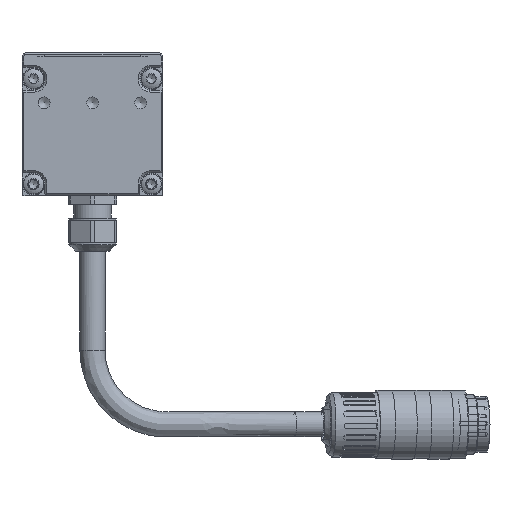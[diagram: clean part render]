
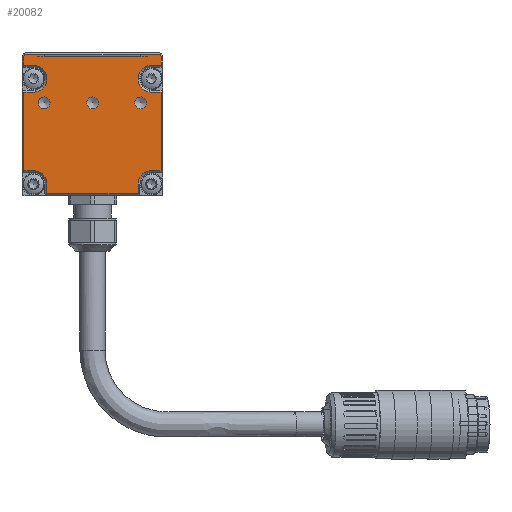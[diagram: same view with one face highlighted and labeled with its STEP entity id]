
A CAD part, left-side view. The second image highlights one B-rep face of the part: STEP entity #20082.
In plain terms, the highlighted planar face has unit normal (-1, 0, 0).
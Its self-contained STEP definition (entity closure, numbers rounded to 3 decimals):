
#880=LINE('',#27913,#1882);
#882=LINE('',#27917,#1884);
#886=LINE('',#27925,#1888);
#889=LINE('',#27931,#1891);
#891=LINE('',#27936,#1893);
#895=LINE('',#27944,#1897);
#897=LINE('',#27948,#1899);
#901=LINE('',#27957,#1903);
#903=LINE('',#27962,#1905);
#906=LINE('',#27970,#1908);
#909=LINE('',#27976,#1911);
#912=LINE('',#27984,#1914);
#916=LINE('',#27992,#1918);
#919=LINE('',#27999,#1921);
#1882=VECTOR('',#23214,1000.);
#1884=VECTOR('',#23218,1000.);
#1888=VECTOR('',#23224,1000.);
#1891=VECTOR('',#23229,1000.);
#1893=VECTOR('',#23235,1000.);
#1897=VECTOR('',#23241,1000.);
#1899=VECTOR('',#23247,1000.);
#1903=VECTOR('',#23257,1000.);
#1905=VECTOR('',#23265,1000.);
#1908=VECTOR('',#23274,1000.);
#1911=VECTOR('',#23283,1000.);
#1914=VECTOR('',#23292,1000.);
#1918=VECTOR('',#23302,1000.);
#1921=VECTOR('',#23311,1000.);
#2682=PLANE('',#21147);
#3923=ORIENTED_EDGE('',*,*,#7674,.T.);
#3924=ORIENTED_EDGE('',*,*,#7675,.T.);
#3925=ORIENTED_EDGE('',*,*,#7676,.T.);
#3926=ORIENTED_EDGE('',*,*,#7648,.T.);
#3927=ORIENTED_EDGE('',*,*,#7645,.T.);
#3928=ORIENTED_EDGE('',*,*,#7639,.T.);
#3929=ORIENTED_EDGE('',*,*,#7656,.T.);
#3930=ORIENTED_EDGE('',*,*,#7654,.T.);
#3931=ORIENTED_EDGE('',*,*,#7652,.T.);
#3932=ORIENTED_EDGE('',*,*,#7630,.T.);
#3933=ORIENTED_EDGE('',*,*,#7663,.T.);
#3934=ORIENTED_EDGE('',*,*,#7661,.T.);
#3935=ORIENTED_EDGE('',*,*,#7659,.T.);
#3936=ORIENTED_EDGE('',*,*,#7628,.T.);
#3937=ORIENTED_EDGE('',*,*,#7673,.F.);
#3938=ORIENTED_EDGE('',*,*,#7643,.T.);
#3939=ORIENTED_EDGE('',*,*,#7672,.F.);
#3940=ORIENTED_EDGE('',*,*,#7637,.T.);
#3941=ORIENTED_EDGE('',*,*,#7671,.T.);
#3942=ORIENTED_EDGE('',*,*,#7669,.T.);
#3943=ORIENTED_EDGE('',*,*,#7667,.T.);
#3944=ORIENTED_EDGE('',*,*,#7634,.T.);
#3945=ORIENTED_EDGE('',*,*,#7650,.T.);
#7628=EDGE_CURVE('',#9566,#9567,#880,.T.);
#7630=EDGE_CURVE('',#9569,#9568,#882,.T.);
#7634=EDGE_CURVE('',#9570,#9571,#886,.T.);
#7637=EDGE_CURVE('',#9572,#9573,#889,.T.);
#7639=EDGE_CURVE('',#9575,#9574,#891,.T.);
#7643=EDGE_CURVE('',#9576,#9577,#895,.T.);
#7645=EDGE_CURVE('',#9578,#9575,#897,.T.);
#7648=EDGE_CURVE('',#9579,#9578,#10697,.T.);
#7650=EDGE_CURVE('',#9571,#9579,#901,.T.);
#7652=EDGE_CURVE('',#9580,#9569,#903,.T.);
#7654=EDGE_CURVE('',#9581,#9580,#10698,.T.);
#7656=EDGE_CURVE('',#9574,#9581,#906,.T.);
#7659=EDGE_CURVE('',#9582,#9566,#909,.T.);
#7661=EDGE_CURVE('',#9583,#9582,#10699,.T.);
#7663=EDGE_CURVE('',#9568,#9583,#912,.T.);
#7667=EDGE_CURVE('',#9584,#9570,#916,.T.);
#7669=EDGE_CURVE('',#9585,#9584,#10700,.T.);
#7671=EDGE_CURVE('',#9573,#9585,#919,.T.);
#7672=EDGE_CURVE('',#9572,#9577,#10701,.T.);
#7673=EDGE_CURVE('',#9576,#9567,#10702,.T.);
#7674=EDGE_CURVE('',#9586,#9586,#10703,.T.);
#7675=EDGE_CURVE('',#9587,#9587,#10704,.T.);
#7676=EDGE_CURVE('',#9588,#9588,#10705,.T.);
#9566=VERTEX_POINT('',#27910);
#9567=VERTEX_POINT('',#27912);
#9568=VERTEX_POINT('',#27916);
#9569=VERTEX_POINT('',#27918);
#9570=VERTEX_POINT('',#27922);
#9571=VERTEX_POINT('',#27924);
#9572=VERTEX_POINT('',#27928);
#9573=VERTEX_POINT('',#27930);
#9574=VERTEX_POINT('',#27935);
#9575=VERTEX_POINT('',#27937);
#9576=VERTEX_POINT('',#27941);
#9577=VERTEX_POINT('',#27943);
#9578=VERTEX_POINT('',#27949);
#9579=VERTEX_POINT('',#27953);
#9580=VERTEX_POINT('',#27963);
#9581=VERTEX_POINT('',#27967);
#9582=VERTEX_POINT('',#27977);
#9583=VERTEX_POINT('',#27981);
#9584=VERTEX_POINT('',#27991);
#9585=VERTEX_POINT('',#27995);
#9586=VERTEX_POINT('',#28007);
#9587=VERTEX_POINT('',#28009);
#9588=VERTEX_POINT('',#28011);
#10697=CIRCLE('',#21122,3.6);
#10698=CIRCLE('',#21128,3.6);
#10699=CIRCLE('',#21134,3.6);
#10700=CIRCLE('',#21140,3.6);
#10701=CIRCLE('',#21144,0.5);
#10702=CIRCLE('',#21146,0.5);
#10703=CIRCLE('',#21148,1.621);
#10704=CIRCLE('',#21149,1.621);
#10705=CIRCLE('',#21150,1.621);
#11388=EDGE_LOOP('',(#3923));
#11389=EDGE_LOOP('',(#3924));
#11390=EDGE_LOOP('',(#3925));
#11391=EDGE_LOOP('',(#3926,#3927,#3928,#3929,#3930,#3931,#3932,#3933,#3934,
#3935,#3936,#3937,#3938,#3939,#3940,#3941,#3942,#3943,#3944,#3945));
#12478=FACE_BOUND('',#11388,.T.);
#12479=FACE_BOUND('',#11389,.T.);
#12480=FACE_BOUND('',#11390,.T.);
#12481=FACE_BOUND('',#11391,.T.);
#20082=ADVANCED_FACE('',(#12478,#12479,#12480,#12481),#2682,.F.);
#21122=AXIS2_PLACEMENT_3D('',#27954,#23252,#23253);
#21128=AXIS2_PLACEMENT_3D('',#27966,#23269,#23270);
#21134=AXIS2_PLACEMENT_3D('',#27980,#23287,#23288);
#21140=AXIS2_PLACEMENT_3D('',#27996,#23306,#23307);
#21144=AXIS2_PLACEMENT_3D('',#28002,#23316,#23317);
#21146=AXIS2_PLACEMENT_3D('',#28004,#23320,#23321);
#21147=AXIS2_PLACEMENT_3D('',#28005,#23322,#23323);
#21148=AXIS2_PLACEMENT_3D('',#28006,#23324,#23325);
#21149=AXIS2_PLACEMENT_3D('',#28008,#23326,#23327);
#21150=AXIS2_PLACEMENT_3D('',#28010,#23328,#23329);
#23214=DIRECTION('',(0.,0.,1.));
#23218=DIRECTION('',(0.,0.,1.));
#23224=DIRECTION('',(0.,0.,-1.));
#23229=DIRECTION('',(0.,0.,-1.));
#23235=DIRECTION('',(0.,-1.,0.));
#23241=DIRECTION('',(0.,1.,0.));
#23247=DIRECTION('',(0.,0.,-1.));
#23252=DIRECTION('',(1.,0.,0.));
#23253=DIRECTION('',(0.,1.,0.));
#23257=DIRECTION('',(0.,-1.,0.));
#23265=DIRECTION('',(0.,-1.,0.));
#23269=DIRECTION('',(1.,0.,0.));
#23270=DIRECTION('',(0.,1.,0.));
#23274=DIRECTION('',(0.,0.,1.));
#23283=DIRECTION('',(0.,-1.,0.));
#23287=DIRECTION('',(1.,0.,0.));
#23288=DIRECTION('',(0.,1.,0.));
#23292=DIRECTION('',(0.,1.,0.));
#23302=DIRECTION('',(0.,1.,0.));
#23306=DIRECTION('',(1.,0.,0.));
#23307=DIRECTION('',(0.,1.,0.));
#23311=DIRECTION('',(0.,-1.,0.));
#23316=DIRECTION('',(1.,0.,0.));
#23317=DIRECTION('',(0.,1.,0.));
#23320=DIRECTION('',(1.,0.,0.));
#23321=DIRECTION('',(0.,1.,0.));
#23322=DIRECTION('',(1.,0.,0.));
#23323=DIRECTION('',(0.,1.,0.));
#23324=DIRECTION('',(1.,0.,0.));
#23325=DIRECTION('',(0.,-1.,0.));
#23326=DIRECTION('',(1.,0.,0.));
#23327=DIRECTION('',(0.,-1.,0.));
#23328=DIRECTION('',(1.,0.,0.));
#23329=DIRECTION('',(0.,-1.,0.));
#27910=CARTESIAN_POINT('',(-1114.998,-18.5,35.119));
#27912=CARTESIAN_POINT('',(-1114.998,-18.5,37.519));
#27913=CARTESIAN_POINT('',(-1114.998,-18.5,0.019));
#27916=CARTESIAN_POINT('',(-1114.998,-18.5,27.919));
#27917=CARTESIAN_POINT('',(-1114.998,-18.5,0.019));
#27918=CARTESIAN_POINT('',(-1114.998,-18.5,6.719));
#27922=CARTESIAN_POINT('',(-1114.998,18.5,27.919));
#27924=CARTESIAN_POINT('',(-1114.998,18.5,6.719));
#27925=CARTESIAN_POINT('',(-1114.998,18.5,0.019));
#27928=CARTESIAN_POINT('',(-1114.998,18.5,37.519));
#27930=CARTESIAN_POINT('',(-1114.998,18.5,35.119));
#27931=CARTESIAN_POINT('',(-1114.998,18.5,0.019));
#27935=CARTESIAN_POINT('',(-1114.998,-12.3,0.519));
#27936=CARTESIAN_POINT('',(-1114.998,-12.3,0.519));
#27937=CARTESIAN_POINT('',(-1114.998,12.3,0.519));
#27941=CARTESIAN_POINT('',(-1114.998,-18.,38.019));
#27943=CARTESIAN_POINT('',(-1114.998,18.,38.019));
#27944=CARTESIAN_POINT('',(-1114.998,-19.,38.019));
#27948=CARTESIAN_POINT('',(-1114.998,12.3,0.019));
#27949=CARTESIAN_POINT('',(-1114.998,12.3,3.119));
#27953=CARTESIAN_POINT('',(-1114.998,15.9,6.719));
#27954=CARTESIAN_POINT('',(-1114.998,15.9,3.119));
#27957=CARTESIAN_POINT('',(-1114.998,-19.,6.719));
#27962=CARTESIAN_POINT('',(-1114.998,-19.,6.719));
#27963=CARTESIAN_POINT('',(-1114.998,-15.9,6.719));
#27966=CARTESIAN_POINT('',(-1114.998,-15.9,3.119));
#27967=CARTESIAN_POINT('',(-1114.998,-12.3,3.119));
#27970=CARTESIAN_POINT('',(-1114.998,-12.3,0.019));
#27976=CARTESIAN_POINT('',(-1114.998,-19.,35.119));
#27977=CARTESIAN_POINT('',(-1114.998,-15.9,35.119));
#27980=CARTESIAN_POINT('',(-1114.998,-15.9,31.519));
#27981=CARTESIAN_POINT('',(-1114.998,-15.9,27.919));
#27984=CARTESIAN_POINT('',(-1114.998,-19.,27.919));
#27991=CARTESIAN_POINT('',(-1114.998,15.9,27.919));
#27992=CARTESIAN_POINT('',(-1114.998,-19.,27.919));
#27995=CARTESIAN_POINT('',(-1114.998,15.9,35.119));
#27996=CARTESIAN_POINT('',(-1114.998,15.9,31.519));
#27999=CARTESIAN_POINT('',(-1114.998,-19.,35.119));
#28002=CARTESIAN_POINT('',(-1114.998,18.,37.519));
#28004=CARTESIAN_POINT('',(-1114.998,-18.,37.519));
#28005=CARTESIAN_POINT('',(-1114.998,-19.,0.019));
#28006=CARTESIAN_POINT('',(-1114.998,13.,25.019));
#28007=CARTESIAN_POINT('',(-1114.998,11.379,25.019));
#28008=CARTESIAN_POINT('',(-1114.998,0.,25.019));
#28009=CARTESIAN_POINT('',(-1114.998,-1.621,25.019));
#28010=CARTESIAN_POINT('',(-1114.998,-13.,25.019));
#28011=CARTESIAN_POINT('',(-1114.998,-14.621,25.019));
